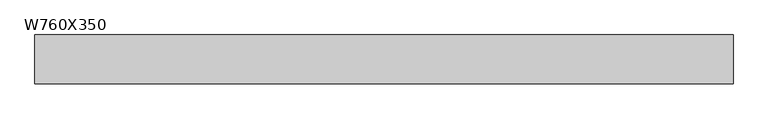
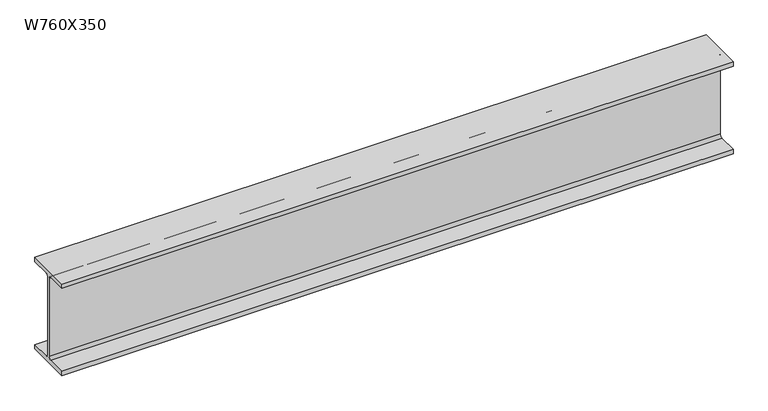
"""IFC4 building model written with IfcOpenShell, lengths in millimetres: beam geometry, M_W-Wide Flange : W760X350."""

from ifc_helpers import new_model, si_unit, point, frame, frame_2d, origin, place, context, project, spatial, polyline, circle_curve, trimmed, segment, composite_curve, outline, extrude, source, transform, mapped, element, save


def w760x350_c276092f(model_context):
    return source(origin(), model_context, "Body", "SweptSolid", [
        extrude(outline(composite_curve([segment(polyline([(192.0, -359.4), (192.0, -397.5), (-192.0, -397.5), (-192.0, -359.4), (-32.75, -359.4)]), True, "CONTINUOUS"), segment(trimmed(circle_curve(frame_2d((-32.75, -337.2)), 22.2), [point((-32.75, -359.4))], [point((-10.55, -337.2))], True, "CARTESIAN"), True, "CONTINUOUS"), segment(polyline([(-10.55, -337.2), (-10.55, 337.2)]), True, "CONTINUOUS"), segment(trimmed(circle_curve(frame_2d((-32.75, 337.2)), 22.2), [point((-10.55, 337.2))], [point((-32.75, 359.4))], True, "CARTESIAN"), True, "CONTINUOUS"), segment(polyline([(-32.75, 359.4), (-192.0, 359.4), (-192.0, 397.5), (192.0, 397.5), (192.0, 359.4), (32.75, 359.4)]), True, "CONTINUOUS"), segment(trimmed(circle_curve(frame_2d((32.75, 337.2)), 22.2), [point((32.75, 359.4))], [point((10.55, 337.2))], True, "CARTESIAN"), True, "CONTINUOUS"), segment(polyline([(10.55, 337.2), (10.55, -337.2)]), True, "CONTINUOUS"), segment(trimmed(circle_curve(frame_2d((32.75, -337.2)), 22.2), [point((10.55, -337.2))], [point((32.75, -359.4))], True, "CARTESIAN"), True, "CONTINUOUS"), segment(polyline([(32.75, -359.4), (192.0, -359.4)]), True, "CONTINUOUS")], self_intersect=False)), frame((-2889.3, 0.0, 0.0), z_axis=(1.0, 0.0, 0.0), x_axis=(0.0, 1.0, 0.0)), (0.0, 0.0, 1.0), 5495.1),
    ])


if __name__ == "__main__":
    model = new_model("IFC4")
    model_context = context("Model", 3, world=origin())
    ifc_project = project(units=[si_unit("LENGTHUNIT", "METRE", prefix="MILLI")], contexts=[model_context])
    site = spatial("IfcSite", under=ifc_project)
    building = spatial("IfcBuilding", under=site)
    placement = place(None, origin())
    w760x350_shape = w760x350_c276092f(model_context)
    element("IfcBeam", 1, ObjectType="M_W-Wide Flange : W760X350", at=placement, inside=building, context=model_context, shape_type="MappedRepresentation", body=[
        mapped(w760x350_shape, transform((0.0, 0.0, 0.0), x_axis=(1.0, 0.0, 0.0), y_axis=(0.0, 1.0, 0.0), z_axis=(0.0, 0.0, 1.0))),
    ])
    save(model, "model.ifc")
